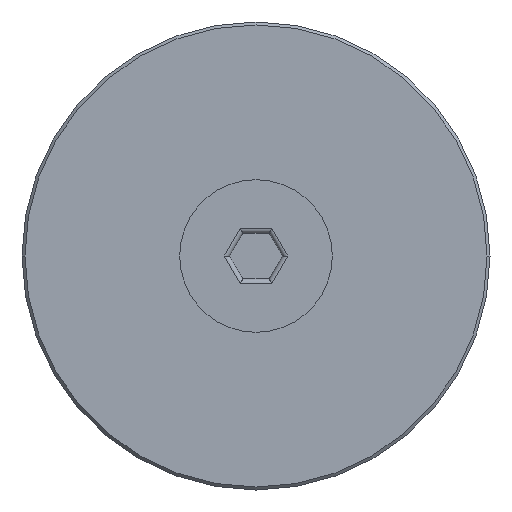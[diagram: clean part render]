
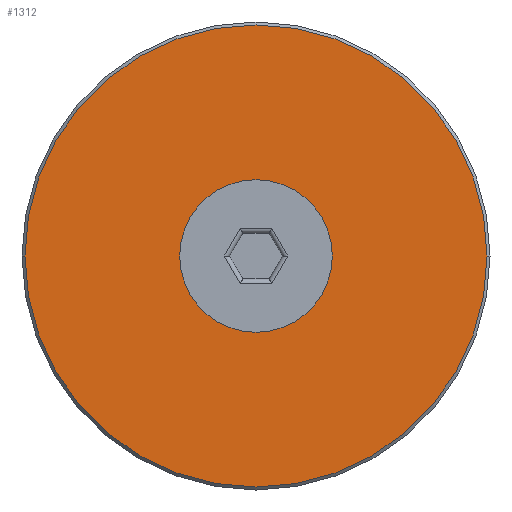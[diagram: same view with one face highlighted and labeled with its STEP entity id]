
A CAD part, front view. The second image highlights one B-rep face of the part: STEP entity #1312.
In plain terms, the highlighted planar face has unit normal (0, -1, 0).
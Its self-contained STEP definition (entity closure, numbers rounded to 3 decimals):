
#1=CARTESIAN_POINT('',(0.,0.,0.));
#2=DIRECTION('',(0.,-1.,0.));
#3=DIRECTION('',(-1.,0.,0.));
#4=AXIS2_PLACEMENT_3D('',#1,#2,#3);
#6=CARTESIAN_POINT('',(0.,0.,0.));
#7=DIRECTION('',(0.,-1.,0.));
#8=DIRECTION('',(1.,0.,0.));
#9=AXIS2_PLACEMENT_3D('',#6,#7,#8);
#11=CARTESIAN_POINT('',(0.,0.,0.));
#12=DIRECTION('',(0.,-1.,0.));
#13=DIRECTION('',(-1.,0.,0.));
#14=AXIS2_PLACEMENT_3D('',#11,#12,#13);
#16=CARTESIAN_POINT('',(0.,0.,0.));
#17=DIRECTION('',(0.,-1.,0.));
#18=DIRECTION('',(1.,0.,0.));
#19=AXIS2_PLACEMENT_3D('',#16,#17,#18);
#1172=CARTESIAN_POINT('',(-5.15,0.,0.));
#1173=CARTESIAN_POINT('',(5.15,0.,0.));
#1174=VERTEX_POINT('',#1172);
#1175=VERTEX_POINT('',#1173);
#1279=CARTESIAN_POINT('',(-15.6,0.,0.));
#1280=CARTESIAN_POINT('',(15.6,0.,0.));
#1281=VERTEX_POINT('',#1279);
#1282=VERTEX_POINT('',#1280);
#1295=CARTESIAN_POINT('',(0.,0.,0.));
#1296=DIRECTION('',(0.,1.,0.));
#1297=DIRECTION('',(1.,0.,0.));
#1298=AXIS2_PLACEMENT_3D('',#1295,#1296,#1297);
#1299=PLANE('',#1298);
#1301=ORIENTED_EDGE('',*,*,#1300,.F.);
#1303=ORIENTED_EDGE('',*,*,#1302,.F.);
#1304=EDGE_LOOP('',(#1301,#1303));
#1305=FACE_OUTER_BOUND('',#1304,.F.);
#1307=ORIENTED_EDGE('',*,*,#1306,.T.);
#1309=ORIENTED_EDGE('',*,*,#1308,.T.);
#1310=EDGE_LOOP('',(#1307,#1309));
#1311=FACE_BOUND('',#1310,.F.);
#1312=ADVANCED_FACE('',(#1305,#1311),#1299,.F.);
#5=CIRCLE('',#4,5.15);
#10=CIRCLE('',#9,5.15);
#15=CIRCLE('',#14,15.6);
#20=CIRCLE('',#19,15.6);
#1300=EDGE_CURVE('',#1281,#1282,#15,.T.);
#1302=EDGE_CURVE('',#1282,#1281,#20,.T.);
#1306=EDGE_CURVE('',#1174,#1175,#5,.T.);
#1308=EDGE_CURVE('',#1175,#1174,#10,.T.);
